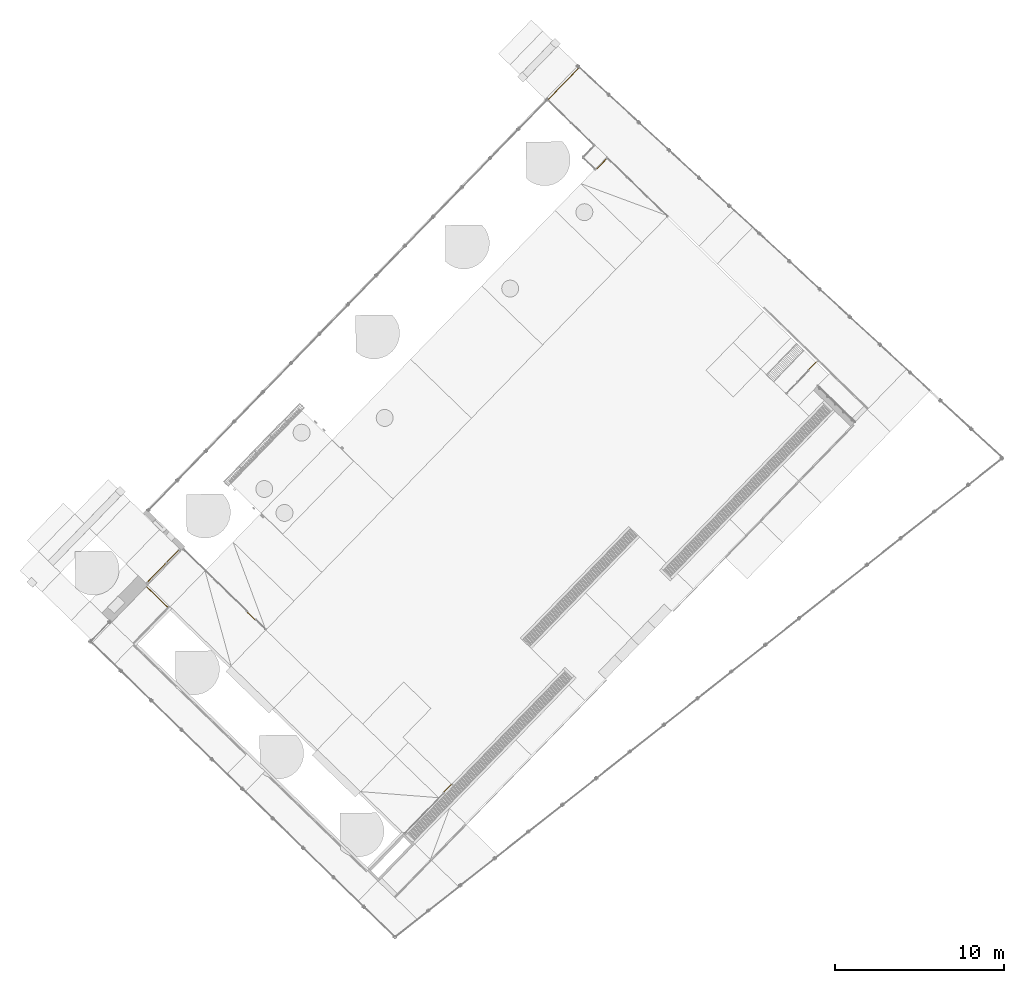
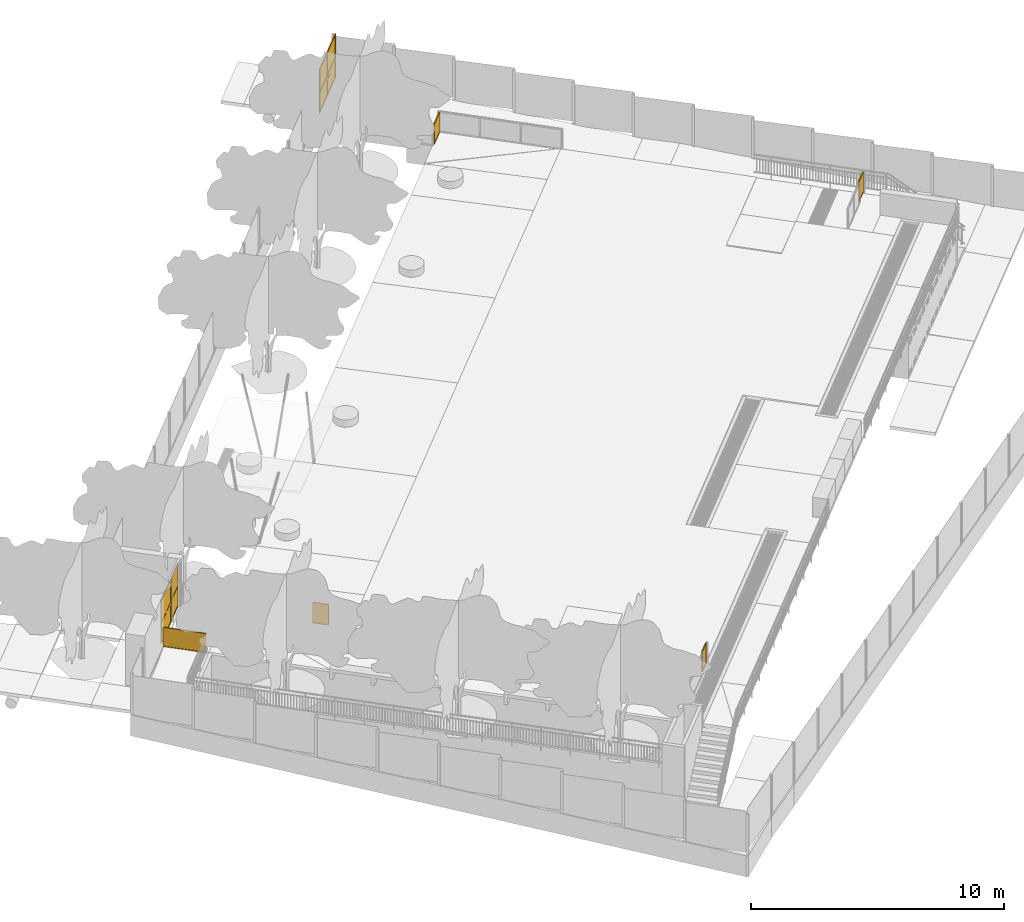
# One storey, part 23 of 37: 8 doors, 7 elements without a shape of their own.
"""IFC2X3 building model written with IfcOpenShell, lengths in centimetres."""

from ifc_helpers import new_model, entity, si_unit, converted_unit, derived_unit, direction, frame, frame_2d, origin, origin_2d_with_axis, place, context, subcontext, project, spatial, polyline, circle_curve, parameter, trimmed, segment, composite_curve, rectangle, outline, extrude, source, transform, mapped, material, material_list, type_object, type_shapes, element, aggregate, save


model = new_model("IFC2X3")

# Units and contexts
model_context = context("Model", 3, precision=0.001, world=origin(), true_north=direction((0.717475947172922, 0.696583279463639)))
body_context = subcontext(model_context, "Body", "Model", "MODEL_VIEW")
ifc_project = project(units=[si_unit("LENGTHUNIT", "METRE", prefix="CENTI"), si_unit("AREAUNIT", "SQUARE_METRE"), si_unit("VOLUMEUNIT", "CUBIC_METRE"), converted_unit("PLANEANGLEUNIT", "DEGREE", entity("IfcRatioMeasure", 0.0174532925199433), si_unit("PLANEANGLEUNIT", "RADIAN"), dimensions=[0, 0, 0, 0, 0, 0, 0]), si_unit("MASSUNIT", "GRAM", prefix="KILO"), derived_unit("MASSDENSITYUNIT", [(si_unit("MASSUNIT", "GRAM", prefix="KILO"), 1), (si_unit("LENGTHUNIT", "METRE"), -3)]), si_unit("TIMEUNIT", "SECOND"), si_unit("FREQUENCYUNIT", "HERTZ"), si_unit("THERMODYNAMICTEMPERATUREUNIT", "DEGREE_CELSIUS"), derived_unit("THERMALTRANSMITTANCEUNIT", [(si_unit("MASSUNIT", "GRAM", prefix="KILO"), 1), (si_unit("THERMODYNAMICTEMPERATUREUNIT", "KELVIN"), -1), (si_unit("TIMEUNIT", "SECOND"), -3)]), derived_unit("VOLUMETRICFLOWRATEUNIT", [(si_unit("LENGTHUNIT", "METRE"), 3), (si_unit("TIMEUNIT", "SECOND"), -1)]), si_unit("ELECTRICCURRENTUNIT", "AMPERE"), si_unit("ELECTRICVOLTAGEUNIT", "VOLT"), si_unit("POWERUNIT", "WATT"), si_unit("FORCEUNIT", "NEWTON", prefix="KILO"), si_unit("ILLUMINANCEUNIT", "LUX"), si_unit("LUMINOUSFLUXUNIT", "LUMEN"), si_unit("LUMINOUSINTENSITYUNIT", "CANDELA"), derived_unit("USERDEFINED", [(si_unit("MASSUNIT", "GRAM", prefix="KILO"), -1), (si_unit("LENGTHUNIT", "METRE"), -2), (si_unit("TIMEUNIT", "SECOND"), 3), (si_unit("LUMINOUSFLUXUNIT", "LUMEN"), 1)]), derived_unit("LINEARVELOCITYUNIT", [(si_unit("LENGTHUNIT", "METRE"), 1), (si_unit("TIMEUNIT", "SECOND"), -1)]), si_unit("PRESSUREUNIT", "PASCAL"), derived_unit("USERDEFINED", [(si_unit("LENGTHUNIT", "METRE"), -2), (si_unit("MASSUNIT", "GRAM", prefix="KILO"), 1), (si_unit("TIMEUNIT", "SECOND"), -2)])], contexts=[model_context])

# Site, building, storey
site_placement = place(None, frame((0.0, 0.0, 0.0), z_axis=(0.0, 0.0, 1.0), x_axis=(0.696583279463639, 0.717475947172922, 0.0)))
site = spatial("IfcSite", under=ifc_project, at=site_placement, Name="Surface", CompositionType="ELEMENT")
building_placement = place(site_placement, origin())
building = spatial("IfcBuilding", under=site, at=building_placement, CompositionType="ELEMENT")
storey_placement = place(building_placement, origin())
storey = spatial("IfcBuildingStorey", under=building, at=storey_placement, Name="Nivel 0.00", CompositionType="ELEMENT", Elevation=0.0)

# Curtain wall, door
curtain_wall_type_1 = type_object("IfcCurtainWallType", Name="Curtain Wall:REJA_BAJA_100mm", PredefinedType="NOTDEFINED")
curtain_wall_1_placement = place(storey_placement, origin())
curtain_wall_1 = element("IfcCurtainWall", 1, at=curtain_wall_1_placement, inside=storey, type_object=curtain_wall_type_1, Name="Curtain Wall:REJA_BAJA_100mm", ObjectType="Curtain Wall:REJA_BAJA_100mm")
ifc_material_1 = material(Name="REJA_MALLA_ACMA")
ifc_material_2 = material(Name="Aluminum")
ifc_material_list_1 = material_list([ifc_material_1, ifc_material_2])
ifc_material_list_2 = material_list([ifc_material_1, ifc_material_2])
door_style_1 = type_object("IfcDoorStyle", Name="PUERTA_REJA_BAJA", ConstructionType="NOTDEFINED", OperationType="NOTDEFINED", ParameterTakesPrecedence=False, Sizeable=False, material=ifc_material_list_2)
shared_shape_1 = source(origin(), body_context, "Body", "SweptSolid", [
    extrude(rectangle(XDim=1.9, YDim=63.9174702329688, at=frame_2d((-2.22044604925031e-16, 0.0), x_axis=(1.0, 0.0))), frame((0.0, 3.78000000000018, 3.0), z_axis=(0.0, 0.0, 1.0), x_axis=(0.0, 1.0, 0.0)), (0.0, 0.0, 1.0), 94.0),
    extrude(outline(polyline([(-34.9587351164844, -50.0), (34.9587351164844, -50.0), (34.9587351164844, 50.0), (-34.9587351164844, 50.0), (-34.9587351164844, -50.0)]), holes=[polyline([(-31.9587351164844, -47.0), (-31.9587351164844, 47.0), (31.9587351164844, 47.0), (31.9587351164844, -47.0), (-31.9587351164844, -47.0)])]), frame((0.0, 1.56000000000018, 50.0), z_axis=(0.0, 1.0, 0.0), x_axis=(1.0, 0.0, 0.0)), (0.0, 0.0, 1.0), 4.44),
])
type_shapes(door_style_1, [shared_shape_1])
door_1_placement = place(curtain_wall_1_placement, frame((1760.59383944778, -1156.74407068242, 152.0)))
door_1 = element("IfcDoor", 2, at=door_1_placement, type_object=door_style_1, material=ifc_material_list_1, Name="PUERTA_REJA_BAJA:PUERTA_REJA_BAJA", ObjectType="PUERTA_REJA_BAJA", OverallHeight=100.0, OverallWidth=69.91747023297, context=body_context, shape_type="MappedRepresentation", body=[
    mapped(shared_shape_1, transform((0.0, 0.0, 0.0), scale=1.0)),
])
aggregate(curtain_wall_1, [door_1])

curtain_wall_type_2 = type_object("IfcCurtainWallType", Name="Curtain Wall:PORTON_REJA_CIERRE", PredefinedType="NOTDEFINED")
curtain_wall_2_placement = place(storey_placement, origin())
curtain_wall_2 = element("IfcCurtainWall", 3, at=curtain_wall_2_placement, inside=storey, type_object=curtain_wall_type_2, Name="Curtain Wall:PORTON_REJA_CIERRE", ObjectType="Curtain Wall:PORTON_REJA_CIERRE")
ifc_material_list_3 = material_list([ifc_material_2, ifc_material_1])
ifc_material_list_4 = material_list([ifc_material_2, ifc_material_1])
door_style_2 = type_object("IfcDoorStyle", Name="PORTON_REJA", ConstructionType="NOTDEFINED", OperationType="DOUBLE_DOOR_DOUBLE_SWING", ParameterTakesPrecedence=False, Sizeable=False, material=ifc_material_list_4)
shared_shape_2 = source(origin(), body_context, "Body", "SweptSolid", [
    extrude(outline(polyline([(-105.0, -64.5747992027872), (105.0, -64.5747992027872), (105.0, 64.5747992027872), (-105.0, 64.5747992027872), (-105.0, -64.5747992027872)]), holes=[polyline([(-99.285, 58.8597992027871), (5.0, 58.8597992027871), (5.0, -58.8597992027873), (-99.285, -58.8597992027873), (-99.285, 58.8597992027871)]), polyline([(22.5000000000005, -58.8597992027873), (22.5000000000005, 58.8597992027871), (99.285, 58.8597992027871), (99.285, -58.8597992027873), (22.5000000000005, -58.8597992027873)])]), frame((-64.6518641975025, -6.0, 105.0), z_axis=(0.0, 1.0, 0.0), x_axis=(0.0, 0.0, -1.0)), (0.0, 0.0, 1.0), 4.44500000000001),
    extrude(outline(polyline([(-64.5724891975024, -105.0), (64.5724891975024, -105.0), (64.5724891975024, 105.0), (-64.5724891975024, 105.0), (-64.5724891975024, -105.0)]), holes=[polyline([(-58.8574891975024, -99.285), (-58.8574891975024, 5.0), (58.8574891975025, 5.0), (58.8574891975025, -99.285), (-58.8574891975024, -99.285)]), polyline([(58.8574891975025, 22.5000000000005), (-58.8574891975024, 22.5000000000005), (-58.8574891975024, 99.285), (58.8574891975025, 99.285), (58.8574891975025, 22.5000000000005)])]), frame((64.6541742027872, -6.0, 105.0), z_axis=(0.0, 1.0, 0.0), x_axis=(1.0, 0.0, 0.0)), (0.0, 0.0, 1.0), 4.44500000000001),
    extrude(rectangle(XDim=117.719598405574, YDim=1.9049999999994, at=frame_2d((-7.105427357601e-15, -2.22044604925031e-16), x_axis=(1.0, 0.0))), frame((-64.6518641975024, -3.77749999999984, 100.0), z_axis=(0.0, 0.0, 1.0), x_axis=(-1.0, 0.0, 0.0)), (0.0, 0.0, 1.0), 104.285),
    extrude(rectangle(XDim=117.719598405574, YDim=1.9049999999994, at=frame_2d((-7.105427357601e-15, -2.22044604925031e-16), x_axis=(1.0, 0.0))), frame((-64.6518641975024, -3.77749999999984, 5.715), z_axis=(0.0, 0.0, 1.0), x_axis=(-1.0, 0.0, 0.0)), (0.0, 0.0, 1.0), 76.7849999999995),
    extrude(rectangle(XDim=117.714978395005, YDim=1.9049999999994, at=frame_2d((3.5527136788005e-15, -2.22044604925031e-16), x_axis=(1.0, 0.0))), frame((64.6541742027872, -3.77749999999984, 100.0), z_axis=(0.0, 0.0, 1.0), x_axis=(-1.0, 0.0, 0.0)), (0.0, 0.0, 1.0), 104.285),
    extrude(rectangle(XDim=117.714978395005, YDim=1.9049999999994, at=frame_2d((3.5527136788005e-15, -2.22044604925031e-16), x_axis=(1.0, 0.0))), frame((64.6541742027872, -3.77749999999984, 5.715), z_axis=(0.0, 0.0, 1.0), x_axis=(-1.0, 0.0, 0.0)), (0.0, 0.0, 1.0), 76.7849999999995),
    extrude(outline(composite_curve([segment(trimmed(circle_curve(frame_2d((-1.77610123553, 0.0875000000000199), x_axis=(1.0, 0.0)), 1.90499999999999), [parameter(180.000000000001)], [parameter(270.0)], True, "PARAMETER"), True, "CONTINUOUS"), segment(polyline([(-1.77610123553, -1.81749999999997), (8.50330370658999, -1.81749999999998)]), True, "CONTINUOUS"), segment(polyline([(8.50330370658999, -1.81749999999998), (8.50330370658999, -1.18249999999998)]), True, "CONTINUOUS"), segment(polyline([(8.50330370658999, -1.18249999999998), (-1.77610123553, -1.18249999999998)]), True, "CONTINUOUS"), segment(trimmed(circle_curve(frame_2d((-1.77610123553, 0.0875000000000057), x_axis=(1.0, 0.0)), 1.26999999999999), [parameter(180.0)], [parameter(270.0)], True, "PARAMETER"), False, "CONTINUOUS"), segment(polyline([(-3.04610123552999, 0.0875000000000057), (-3.04610123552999, 2.91249999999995)]), True, "CONTINUOUS"), segment(polyline([(-3.04610123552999, 2.91249999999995), (-3.68110123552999, 2.91249999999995)]), True, "CONTINUOUS"), segment(polyline([(-3.68110123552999, 2.91249999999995), (-3.68110123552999, 0.0875000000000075)]), True, "CONTINUOUS")], self_intersect=False)), frame((6.85841124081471, -8.91250000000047, 91.4532475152)), (0.0, 0.0, 1.0), 2.1947902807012),
    extrude(outline(composite_curve([segment(polyline([(0.0874999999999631, -3.63417797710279), (2.91250000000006, -3.63417797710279)]), True, "CONTINUOUS"), segment(polyline([(2.91250000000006, -3.63417797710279), (2.91250000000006, -2.99917797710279)]), True, "CONTINUOUS"), segment(polyline([(2.91250000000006, -2.99917797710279), (0.0874999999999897, -2.99917797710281)]), True, "CONTINUOUS"), segment(trimmed(circle_curve(frame_2d((0.0874999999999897, -1.7291779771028), x_axis=(0.0, -1.0)), 1.27000000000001), [parameter(270.0)], [parameter(0.0)], True, "PARAMETER"), False, "CONTINUOUS"), segment(polyline([(-1.18250000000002, -1.7291779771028), (-1.18250000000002, 8.36253393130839)]), True, "CONTINUOUS"), segment(polyline([(-1.18250000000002, 8.36253393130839), (-1.81750000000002, 8.36253393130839)]), True, "CONTINUOUS"), segment(polyline([(-1.81750000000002, 8.36253393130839), (-1.81750000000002, -1.7291779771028)]), True, "CONTINUOUS"), segment(trimmed(circle_curve(frame_2d((0.0874999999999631, -1.7291779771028), x_axis=(0.0, -1.0)), 1.90499999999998), [parameter(270.0)], [parameter(0.0)], True, "PARAMETER"), True, "CONTINUOUS")], self_intersect=False)), frame((-6.80686797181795, -8.91250000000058, 91.4532475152), z_axis=(0.0, 0.0, 1.0), x_axis=(0.0, 1.0, 0.0)), (0.0, 0.0, 1.0), 2.1947902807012),
])
type_shapes(door_style_2, [shared_shape_2])
door_2_placement = place(curtain_wall_2_placement, frame((1929.85436982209, 1067.84129304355, 150.0)))
door_2 = element("IfcDoor", 4, at=door_2_placement, type_object=door_style_2, material=ifc_material_list_3, Name="PORTON_REJA:PORTON_REJA", ObjectType="PORTON_REJA", OverallHeight=210.013065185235, OverallWidth=258.468795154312, context=body_context, shape_type="MappedRepresentation", body=[
    mapped(shared_shape_2, transform((0.0, 0.0, 0.0), scale=1.0)),
])
aggregate(curtain_wall_2, [door_2])

# Curtain wall, doors
curtain_wall_type_3 = type_object("IfcCurtainWallType", Name="Curtain Wall:PORTON_REJA_CIERRE_3", PredefinedType="NOTDEFINED")
curtain_wall_3_placement = place(storey_placement, origin())
curtain_wall_3 = element("IfcCurtainWall", 5, at=curtain_wall_3_placement, inside=storey, type_object=curtain_wall_type_3, Name="Curtain Wall:PORTON_REJA_CIERRE_3", ObjectType="Curtain Wall:PORTON_REJA_CIERRE_3")
ifc_material_list_5 = material_list([ifc_material_1, ifc_material_2])
ifc_material_list_6 = material_list([ifc_material_1, ifc_material_2])
door_style_3 = type_object("IfcDoorStyle", Name="PUERTA_REJA", ConstructionType="NOTDEFINED", OperationType="NOTDEFINED", ParameterTakesPrecedence=False, Sizeable=False, material=ifc_material_list_6)
shared_shape_3 = source(origin(), body_context, "Body", "SweptSolid", [
    extrude(rectangle(XDim=1.9, YDim=88.6260699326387, at=origin_2d_with_axis()), frame((0.0396875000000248, 3.78000000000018, 100.0), z_axis=(0.0, 0.0, 1.0), x_axis=(0.0, 1.0, 0.0)), (0.0, 0.0, 1.0), 104.284999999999),
    extrude(rectangle(XDim=1.9, YDim=88.4673199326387, at=origin_2d_with_axis()), frame((0.119062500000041, 3.78000000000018, 5.715), z_axis=(0.0, 0.0, 1.0), x_axis=(0.0, 1.0, 0.0)), (0.0, 0.0, 1.0), 76.7850000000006),
    extrude(outline(polyline([(-49.9883474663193, -105.0), (49.9883474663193, -105.0), (49.9883474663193, 105.0), (-49.9883474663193, 105.0), (-49.9883474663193, -105.0)]), holes=[polyline([(44.3527224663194, 22.4999999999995), (-44.1145974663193, 22.4999999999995), (-44.1145974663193, 99.285), (44.3527224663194, 99.285), (44.3527224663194, 22.4999999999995)]), polyline([(-44.2733474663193, -99.285), (-44.2733474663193, 5.0), (44.3527224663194, 5.0), (44.3527224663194, -99.285), (-44.2733474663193, -99.285)])]), frame((0.0, 1.56000000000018, 105.0), z_axis=(0.0, 1.0, 0.0), x_axis=(1.0, 0.0, 0.0)), (0.0, 0.0, 1.0), 4.44),
    extrude(outline(composite_curve([segment(polyline([(0.0875000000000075, -3.68110123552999), (2.91249999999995, -3.68110123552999)]), True, "CONTINUOUS"), segment(polyline([(2.91249999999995, -3.68110123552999), (2.91249999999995, -3.04610123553)]), True, "CONTINUOUS"), segment(polyline([(2.91249999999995, -3.04610123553), (0.0875000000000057, -3.04610123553)]), True, "CONTINUOUS"), segment(trimmed(circle_curve(frame_2d((0.0875000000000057, -1.77610123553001), x_axis=(0.0, 1.0)), 1.26999999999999), [parameter(90.0000000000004)], [parameter(180.0)], True, "PARAMETER"), False, "CONTINUOUS"), segment(polyline([(-1.18249999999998, -1.77610123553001), (-1.18249999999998, 8.50330370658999)]), True, "CONTINUOUS"), segment(polyline([(-1.18249999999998, 8.50330370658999), (-1.81749999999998, 8.50330370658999)]), True, "CONTINUOUS"), segment(polyline([(-1.81749999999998, 8.50330370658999), (-1.81749999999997, -1.77610123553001)]), True, "CONTINUOUS"), segment(trimmed(circle_curve(frame_2d((0.0875000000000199, -1.77610123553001), x_axis=(0.0, 1.0)), 1.90499999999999), [parameter(89.9999999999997)], [parameter(179.999999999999)], True, "PARAMETER"), True, "CONTINUOUS")], self_intersect=False)), frame((-38.3001753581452, 8.91250000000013, 91.4532475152), z_axis=(0.0, 0.0, 1.0), x_axis=(0.0, -1.0, 0.0)), (0.0, 0.0, 1.0), 2.1947902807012),
])
type_shapes(door_style_3, [shared_shape_3])
door_3_placement = place(curtain_wall_3_placement, frame((-1680.47163957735, 772.923167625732, 150.0)))
door_3 = element("IfcDoor", 6, at=door_3_placement, type_object=door_style_3, material=ifc_material_list_5, Name="PUERTA_REJA:PUERTA_REJA", ObjectType="PUERTA_REJA", OverallHeight=210.0, OverallWidth=99.97669493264, context=body_context, shape_type="MappedRepresentation", body=[
    mapped(shared_shape_3, transform((0.0, 0.0, 0.0), scale=1.0)),
])
ifc_material_list_7 = material_list([ifc_material_2, ifc_material_1])
ifc_material_list_8 = material_list([ifc_material_2, ifc_material_1])
door_style_4 = type_object("IfcDoorStyle", Name="PORTON_REJA", ConstructionType="NOTDEFINED", OperationType="DOUBLE_DOOR_DOUBLE_SWING", ParameterTakesPrecedence=False, Sizeable=False, material=ifc_material_list_8)
shared_shape_4 = source(origin(), body_context, "Body", "SweptSolid", [
    extrude(outline(polyline([(-105.0, -38.7857595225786), (105.0, -38.7857595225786), (105.0, 38.7857595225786), (-105.0, 38.7857595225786), (-105.0, -38.7857595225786)]), holes=[polyline([(-99.285, 33.0707595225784), (5.0, 33.0707595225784), (5.0, -33.0707595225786), (-99.285, -33.0707595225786), (-99.285, 33.0707595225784)]), polyline([(22.5000000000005, -33.0707595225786), (22.5000000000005, 33.0707595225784), (99.285, 33.0707595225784), (99.285, -33.0707595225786), (22.5000000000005, -33.0707595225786)])]), frame((-38.8628245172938, -6.0, 105.0), z_axis=(0.0, 1.0, 0.0), x_axis=(0.0, 0.0, -1.0)), (0.0, 0.0, 1.0), 4.44500000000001),
    extrude(outline(polyline([(-38.7834495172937, -105.0), (38.7834495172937, -105.0), (38.7834495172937, 105.0), (-38.7834495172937, 105.0), (-38.7834495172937, -105.0)]), holes=[polyline([(-33.0684495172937, -99.285), (-33.0684495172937, 5.0), (33.0684495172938, 5.0), (33.0684495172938, -99.285), (-33.0684495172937, -99.285)]), polyline([(33.0684495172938, 22.5000000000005), (-33.0684495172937, 22.5000000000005), (-33.0684495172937, 99.285), (33.0684495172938, 99.285), (33.0684495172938, 22.5000000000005)])]), frame((38.8651345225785, -6.0, 105.0), z_axis=(0.0, 1.0, 0.0), x_axis=(1.0, 0.0, 0.0)), (0.0, 0.0, 1.0), 4.44500000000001),
    extrude(rectangle(XDim=66.141519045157, YDim=1.9049999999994, at=frame_2d((-7.105427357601e-15, -2.22044604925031e-16), x_axis=(1.0, 0.0))), frame((-38.8628245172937, -3.77749999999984, 100.0), z_axis=(0.0, 0.0, 1.0), x_axis=(-1.0, 0.0, 0.0)), (0.0, 0.0, 1.0), 104.285),
    extrude(rectangle(XDim=66.141519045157, YDim=1.9049999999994, at=frame_2d((-7.105427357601e-15, -2.22044604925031e-16), x_axis=(1.0, 0.0))), frame((-38.8628245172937, -3.77749999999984, 5.715), z_axis=(0.0, 0.0, 1.0), x_axis=(-1.0, 0.0, 0.0)), (0.0, 0.0, 1.0), 76.7849999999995),
    extrude(rectangle(XDim=66.1368990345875, YDim=1.9049999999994, at=frame_2d((3.5527136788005e-15, -2.22044604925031e-16), x_axis=(1.0, 0.0))), frame((38.8651345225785, -3.77749999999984, 100.0), z_axis=(0.0, 0.0, 1.0), x_axis=(-1.0, 0.0, 0.0)), (0.0, 0.0, 1.0), 104.285),
    extrude(rectangle(XDim=66.1368990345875, YDim=1.9049999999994, at=frame_2d((3.5527136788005e-15, -2.22044604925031e-16), x_axis=(1.0, 0.0))), frame((38.8651345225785, -3.77749999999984, 5.715), z_axis=(0.0, 0.0, 1.0), x_axis=(-1.0, 0.0, 0.0)), (0.0, 0.0, 1.0), 76.7849999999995),
    extrude(outline(composite_curve([segment(trimmed(circle_curve(frame_2d((-1.77610123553, 0.0875000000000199), x_axis=(1.0, 0.0)), 1.90499999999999), [parameter(180.000000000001)], [parameter(270.0)], True, "PARAMETER"), True, "CONTINUOUS"), segment(polyline([(-1.77610123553, -1.81749999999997), (8.50330370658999, -1.81749999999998)]), True, "CONTINUOUS"), segment(polyline([(8.50330370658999, -1.81749999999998), (8.50330370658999, -1.18249999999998)]), True, "CONTINUOUS"), segment(polyline([(8.50330370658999, -1.18249999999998), (-1.77610123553, -1.18249999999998)]), True, "CONTINUOUS"), segment(trimmed(circle_curve(frame_2d((-1.77610123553, 0.0875000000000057), x_axis=(1.0, 0.0)), 1.26999999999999), [parameter(180.0)], [parameter(270.0)], True, "PARAMETER"), False, "CONTINUOUS"), segment(polyline([(-3.04610123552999, 0.0875000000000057), (-3.04610123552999, 2.91249999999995)]), True, "CONTINUOUS"), segment(polyline([(-3.04610123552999, 2.91249999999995), (-3.68110123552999, 2.91249999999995)]), True, "CONTINUOUS"), segment(polyline([(-3.68110123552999, 2.91249999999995), (-3.68110123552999, 0.0875000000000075)]), True, "CONTINUOUS")], self_intersect=False)), frame((6.85841124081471, -8.91250000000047, 91.4532475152)), (0.0, 0.0, 1.0), 2.1947902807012),
    extrude(outline(composite_curve([segment(polyline([(0.0874999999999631, -3.63417797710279), (2.91250000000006, -3.63417797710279)]), True, "CONTINUOUS"), segment(polyline([(2.91250000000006, -3.63417797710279), (2.91250000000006, -2.99917797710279)]), True, "CONTINUOUS"), segment(polyline([(2.91250000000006, -2.99917797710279), (0.0874999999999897, -2.99917797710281)]), True, "CONTINUOUS"), segment(trimmed(circle_curve(frame_2d((0.0874999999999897, -1.7291779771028), x_axis=(0.0, -1.0)), 1.27000000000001), [parameter(270.0)], [parameter(0.0)], True, "PARAMETER"), False, "CONTINUOUS"), segment(polyline([(-1.18250000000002, -1.7291779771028), (-1.18250000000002, 8.36253393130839)]), True, "CONTINUOUS"), segment(polyline([(-1.18250000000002, 8.36253393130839), (-1.81750000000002, 8.36253393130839)]), True, "CONTINUOUS"), segment(polyline([(-1.81750000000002, 8.36253393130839), (-1.81750000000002, -1.7291779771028)]), True, "CONTINUOUS"), segment(trimmed(circle_curve(frame_2d((0.0874999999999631, -1.7291779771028), x_axis=(0.0, -1.0)), 1.90499999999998), [parameter(270.0)], [parameter(0.0)], True, "PARAMETER"), True, "CONTINUOUS")], self_intersect=False)), frame((-6.80686797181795, -8.91250000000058, 91.4532475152), z_axis=(0.0, 0.0, 1.0), x_axis=(0.0, 1.0, 0.0)), (0.0, 0.0, 1.0), 2.1947902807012),
])
type_shapes(door_style_4, [shared_shape_4])
door_4_placement = place(curtain_wall_3_placement, frame((-1818.10857108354, 772.923167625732, 150.0), z_axis=(0.0, 0.0, 1.0), x_axis=(-1.0, 0.0, 0.0)))
door_4 = element("IfcDoor", 7, at=door_4_placement, type_object=door_style_4, material=ifc_material_list_7, Name="PORTON_REJA:PORTON_REJA", ObjectType="PORTON_REJA", OverallHeight=210.013065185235, OverallWidth=155.312636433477, context=body_context, shape_type="MappedRepresentation", body=[
    mapped(shared_shape_4, transform((0.0, 0.0, 0.0), scale=1.0)),
])
aggregate(curtain_wall_3, [door_3, door_4])

# Curtain wall, door
curtain_wall_4_placement = place(storey_placement, origin())
curtain_wall_4 = element("IfcCurtainWall", 8, at=curtain_wall_4_placement, inside=storey, type_object=curtain_wall_type_2, Name="Curtain Wall:PORTON_REJA_CIERRE", ObjectType="Curtain Wall:PORTON_REJA_CIERRE")
ifc_material_list_9 = material_list([ifc_material_2, ifc_material_1])
ifc_material_list_10 = material_list([ifc_material_2, ifc_material_1])
door_style_5 = type_object("IfcDoorStyle", Name="PORTON_REJA_baja", ConstructionType="NOTDEFINED", OperationType="NOTDEFINED", ParameterTakesPrecedence=False, Sizeable=False, material=ifc_material_list_10)
shared_shape_5 = source(origin(), body_context, "Body", "SweptSolid", [
    extrude(outline(polyline([(-46.5, -43.4614675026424), (46.5, -43.4614675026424), (46.5, 43.4614675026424), (-46.5, 43.4614675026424), (-46.5, -43.4614675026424)]), holes=[polyline([(-43.5, 40.4614675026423), (43.5, 40.4614675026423), (43.5, -40.4614675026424), (-43.5, -40.4614675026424), (-43.5, 40.4614675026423)])]), frame((-43.5385324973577, -2.0, 46.5), z_axis=(0.0, 1.0, 0.0), x_axis=(0.0, 0.0, -1.0)), (0.0, 0.0, 1.0), 4.44500000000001),
    extrude(outline(polyline([(-43.4591574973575, -46.5), (43.4591574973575, -46.5), (43.4591574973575, 46.5), (-43.4591574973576, 46.5), (-43.4591574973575, -46.5)]), holes=[polyline([(-40.4591574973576, -43.5), (-40.4591574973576, 43.5), (40.4591574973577, 43.5), (40.4591574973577, -43.5), (-40.4591574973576, -43.5)])]), frame((43.5408425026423, -2.0, 46.5), z_axis=(0.0, 1.0, 0.0), x_axis=(1.0, 0.0, 0.0)), (0.0, 0.0, 1.0), 4.44500000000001),
    extrude(rectangle(XDim=80.9229350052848, YDim=1.90499999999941, at=origin_2d_with_axis()), frame((-43.5385324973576, 0.222500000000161, 3.0), z_axis=(0.0, 0.0, 1.0), x_axis=(-1.0, 0.0, 0.0)), (0.0, 0.0, 1.0), 87.0),
    extrude(rectangle(XDim=80.9183149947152, YDim=1.90499999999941, at=origin_2d_with_axis()), frame((43.5408425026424, 0.222500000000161, 3.0), z_axis=(0.0, 0.0, 1.0), x_axis=(-1.0, 0.0, 0.0)), (0.0, 0.0, 1.0), 87.0),
    extrude(rectangle(XDim=14.082471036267, YDim=0.634999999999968, at=origin_2d_with_axis()), frame((-9.45645447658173, -2.31750000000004, 90.5352518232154)), (0.0, 0.0, 1.0), 0.964748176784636),
])
type_shapes(door_style_5, [shared_shape_5])
door_5_placement = place(curtain_wall_4_placement, frame((-1918.1628063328, 675.060882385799, 155.0), z_axis=(0.0, 0.0, 1.0), x_axis=(0.0, -1.0, 0.0)))
door_5 = element("IfcDoor", 9, at=door_5_placement, type_object=door_style_5, material=ifc_material_list_9, Name="PORTON_REJA_baja:PORTON_REJA_baja", ObjectType="PORTON_REJA_baja", OverallHeight=93.0130651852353, OverallWidth=174.015468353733, context=body_context, shape_type="MappedRepresentation", body=[
    mapped(shared_shape_5, transform((0.0, 0.0, 0.0), scale=1.0)),
])
aggregate(curtain_wall_4, [door_5])

curtain_wall_5_placement = place(storey_placement, origin())
curtain_wall_5 = element("IfcCurtainWall", 10, at=curtain_wall_5_placement, inside=storey, type_object=curtain_wall_type_1, Name="Curtain Wall:REJA_BAJA_100mm", ObjectType="Curtain Wall:REJA_BAJA_100mm")
ifc_material_list_11 = material_list([ifc_material_1, ifc_material_2])
ifc_material_list_12 = material_list([ifc_material_1, ifc_material_2])
door_style_6 = type_object("IfcDoorStyle", Name="PUERTA_REJA_BAJA", ConstructionType="NOTDEFINED", OperationType="NOTDEFINED", ParameterTakesPrecedence=False, Sizeable=False, material=ifc_material_list_12)
shared_shape_6 = source(origin(), body_context, "Body", "SweptSolid", [
    extrude(rectangle(XDim=1.9, YDim=58.990228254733, at=origin_2d_with_axis()), frame((0.0, 3.78000000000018, 3.0), z_axis=(0.0, 0.0, 1.0), x_axis=(0.0, 1.0, 0.0)), (0.0, 0.0, 1.0), 94.0),
    extrude(outline(polyline([(-32.4951141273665, -50.0), (32.4951141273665, -50.0), (32.4951141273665, 50.0), (-32.4951141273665, 50.0), (-32.4951141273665, -50.0)]), holes=[polyline([(-29.4951141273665, -47.0), (-29.4951141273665, 47.0), (29.4951141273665, 47.0), (29.4951141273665, -47.0), (-29.4951141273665, -47.0)])]), frame((0.0, 1.56000000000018, 50.0), z_axis=(0.0, 1.0, 0.0), x_axis=(1.0, 0.0, 0.0)), (0.0, 0.0, 1.0), 4.44),
])
type_shapes(door_style_6, [shared_shape_6])
door_6_placement = place(curtain_wall_5_placement, frame((-1533.03151910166, -1348.55485725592, 152.0)))
door_6 = element("IfcDoor", 11, at=door_6_placement, type_object=door_style_6, material=ifc_material_list_11, Name="PUERTA_REJA_BAJA:PUERTA_REJA_BAJA", ObjectType="PUERTA_REJA_BAJA", OverallHeight=100.0, OverallWidth=64.9902282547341, context=body_context, shape_type="MappedRepresentation", body=[
    mapped(shared_shape_6, transform((0.0, 0.0, 0.0), scale=1.0)),
])
aggregate(curtain_wall_5, [door_6])

curtain_wall_6_placement = place(storey_placement, origin())
curtain_wall_6 = element("IfcCurtainWall", 12, at=curtain_wall_6_placement, inside=storey, type_object=curtain_wall_type_1, Name="Curtain Wall:REJA_BAJA_100mm", ObjectType="Curtain Wall:REJA_BAJA_100mm")
ifc_material_list_13 = material_list([ifc_material_1, ifc_material_2])
ifc_material_list_14 = material_list([ifc_material_1, ifc_material_2])
door_style_7 = type_object("IfcDoorStyle", Name="PUERTA_REJA_BAJA", ConstructionType="NOTDEFINED", OperationType="NOTDEFINED", ParameterTakesPrecedence=False, Sizeable=False, material=ifc_material_list_14)
shared_shape_7 = source(origin(), body_context, "Body", "SweptSolid", [
    extrude(rectangle(XDim=58.9787245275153, YDim=1.9, at=origin_2d_with_axis()), frame((0.0, -3.78000000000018, 3.0), z_axis=(0.0, 0.0, 1.0), x_axis=(-1.0, 0.0, 0.0)), (0.0, 0.0, 1.0), 94.0),
    extrude(outline(polyline([(-32.4893622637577, -50.0), (32.4893622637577, -50.0), (32.4893622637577, 50.0), (-32.4893622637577, 50.0), (-32.4893622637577, -50.0)]), holes=[polyline([(-29.4893622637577, -47.0), (-29.4893622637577, 47.0), (29.4893622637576, 47.0), (29.4893622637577, -47.0), (-29.4893622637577, -47.0)])]), frame((0.0, -6.0, 50.0), z_axis=(0.0, 1.0, 0.0), x_axis=(1.0, 0.0, 0.0)), (0.0, 0.0, 1.0), 4.44),
])
type_shapes(door_style_7, [shared_shape_7])
door_7_placement = place(curtain_wall_6_placement, frame((-1608.1443741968, 197.392580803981, 152.0), z_axis=(0.0, 0.0, 1.0), x_axis=(0.0, -1.0, 0.0)))
door_7 = element("IfcDoor", 13, at=door_7_placement, type_object=door_style_7, material=ifc_material_list_13, Name="PUERTA_REJA_BAJA:PUERTA_REJA_BAJA", ObjectType="PUERTA_REJA_BAJA", OverallHeight=100.0, OverallWidth=64.9787245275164, context=body_context, shape_type="MappedRepresentation", body=[
    mapped(shared_shape_7, transform((0.0, 0.0, 0.0), scale=1.0)),
])
aggregate(curtain_wall_6, [door_7])

curtain_wall_type_4 = type_object("IfcCurtainWallType", Name="Curtain Wall:REJA_BAJA_SIMPLE_100mm", PredefinedType="NOTDEFINED")
curtain_wall_7_placement = place(storey_placement, origin())
curtain_wall_7 = element("IfcCurtainWall", 14, at=curtain_wall_7_placement, inside=storey, type_object=curtain_wall_type_4, Name="Curtain Wall:REJA_BAJA_SIMPLE_100mm", ObjectType="Curtain Wall:REJA_BAJA_SIMPLE_100mm")
ifc_material_list_15 = material_list([ifc_material_1, ifc_material_2])
ifc_material_list_16 = material_list([ifc_material_1, ifc_material_2])
door_style_8 = type_object("IfcDoorStyle", Name="PUERTA_REJA_BAJA", ConstructionType="NOTDEFINED", OperationType="NOTDEFINED", ParameterTakesPrecedence=False, Sizeable=False, material=ifc_material_list_16)
shared_shape_8 = source(origin(), body_context, "Body", "SweptSolid", [
    extrude(rectangle(XDim=77.5751315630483, YDim=1.9, at=origin_2d_with_axis()), frame((0.0, -3.78000000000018, 3.0), z_axis=(0.0, 0.0, 1.0), x_axis=(-1.0, 0.0, 0.0)), (0.0, 0.0, 1.0), 92.0),
    extrude(outline(polyline([(-41.7875657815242, -49.0), (41.7875657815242, -49.0), (41.7875657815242, 49.0), (-41.7875657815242, 49.0), (-41.7875657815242, -49.0)]), holes=[polyline([(-38.7875657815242, -46.0), (-38.7875657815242, 46.0), (38.7875657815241, 46.0), (38.7875657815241, -46.0), (-38.7875657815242, -46.0)])]), frame((0.0, -6.0, 49.0), z_axis=(0.0, 1.0, 0.0), x_axis=(1.0, 0.0, 0.0)), (0.0, 0.0, 1.0), 4.44),
])
type_shapes(door_style_8, [shared_shape_8])
door_8_placement = place(curtain_wall_7_placement, frame((1747.34014064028, 576.14923286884, 150.0)))
door_8 = element("IfcDoor", 15, at=door_8_placement, type_object=door_style_8, material=ifc_material_list_15, Name="PUERTA_REJA_BAJA:PUERTA_REJA_BAJA", ObjectType="PUERTA_REJA_BAJA", OverallHeight=98.0000000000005, OverallWidth=83.5751315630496, context=body_context, shape_type="MappedRepresentation", body=[
    mapped(shared_shape_8, transform((0.0, 0.0, 0.0), scale=1.0)),
])
aggregate(curtain_wall_7, [door_8])

save(model, "model.ifc")
